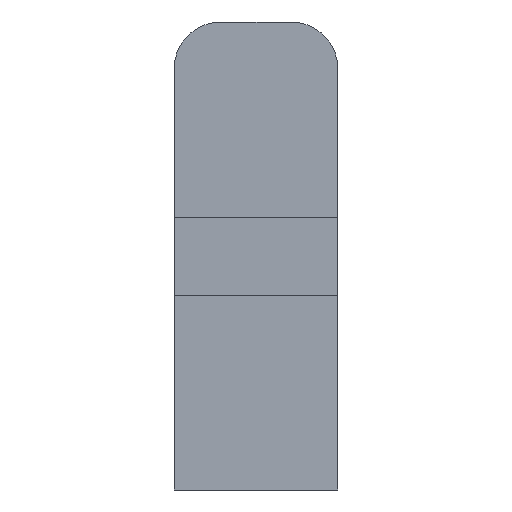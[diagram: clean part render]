
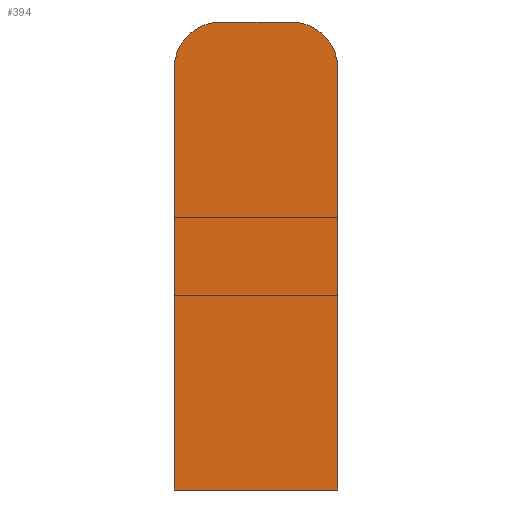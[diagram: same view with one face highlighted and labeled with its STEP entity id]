
A CAD part, front view. The second image highlights one B-rep face of the part: STEP entity #394.
In plain terms, the highlighted planar face has unit normal (0, -1, 0).
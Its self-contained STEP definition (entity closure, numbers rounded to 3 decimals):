
#40 = ORIENTED_EDGE ( 'NONE', *, *, #334, .T. ) ;
#41 = ORIENTED_EDGE ( 'NONE', *, *, #340, .T. ) ;
#42 = ORIENTED_EDGE ( 'NONE', *, *, #343, .T. ) ;
#43 = ORIENTED_EDGE ( 'NONE', *, *, #346, .T. ) ;
#44 = ORIENTED_EDGE ( 'NONE', *, *, #338, .T. ) ;
#45 = ORIENTED_EDGE ( 'NONE', *, *, #356, .T. ) ;
#64 = LINE ( 'NONE', #189, #79 ) ;
#79 = VECTOR ( 'NONE', #204, 1000. ) ;
#85 = LINE ( 'NONE', #205, #87 ) ;
#87 = VECTOR ( 'NONE', #213, 1000. ) ;
#88 = VECTOR ( 'NONE', #224, 1000. ) ;
#91 = LINE ( 'NONE', #223, #88 ) ;
#92 = CIRCLE ( 'NONE', #362, 3. ) ;
#102 = CIRCLE ( 'NONE', #361, 3. ) ;
#105 = FACE_OUTER_BOUND ( 'NONE', #389, .T. ) ;
#118 = LINE ( 'NONE', #254, #119 ) ;
#119 = VECTOR ( 'NONE', #255, 1000. ) ;
#144 = VERTEX_POINT ( 'NONE', #151 ) ;
#151 = CARTESIAN_POINT ( 'NONE',  ( 5.25, 0., -16.5 ) ) ;
#154 = VERTEX_POINT ( 'NONE', #173 ) ;
#157 = VERTEX_POINT ( 'NONE', #180 ) ;
#158 = VERTEX_POINT ( 'NONE', #181 ) ;
#159 = VERTEX_POINT ( 'NONE', #182 ) ;
#160 = VERTEX_POINT ( 'NONE', #183 ) ;
#173 = CARTESIAN_POINT ( 'NONE',  ( 2.25, 0., 13.5 ) ) ;
#180 = CARTESIAN_POINT ( 'NONE',  ( 5.25, 0., 10.5 ) ) ;
#181 = CARTESIAN_POINT ( 'NONE',  ( -5.25, 0., 10.5 ) ) ;
#182 = CARTESIAN_POINT ( 'NONE',  ( -5.25, 0., -16.5 ) ) ;
#183 = CARTESIAN_POINT ( 'NONE',  ( -2.25, 0., 13.5 ) ) ;
#189 = CARTESIAN_POINT ( 'NONE',  ( 5.25, 0., -16.5 ) ) ;
#204 = DIRECTION ( 'NONE',  ( 0., 0., 1. ) ) ;
#205 = CARTESIAN_POINT ( 'NONE',  ( -5.25, 0., -16.5 ) ) ;
#212 = CARTESIAN_POINT ( 'NONE',  ( 2.25, 0., 10.5 ) ) ;
#213 = DIRECTION ( 'NONE',  ( 0., 0., -1. ) ) ;
#216 = DIRECTION ( 'NONE',  ( 0., -1., 0. ) ) ;
#217 = DIRECTION ( 'NONE',  ( -1., 0., 0. ) ) ;
#223 = CARTESIAN_POINT ( 'NONE',  ( 2.25, 0., 13.5 ) ) ;
#224 = DIRECTION ( 'NONE',  ( -1., 0., 0. ) ) ;
#225 = CARTESIAN_POINT ( 'NONE',  ( -2.25, 0., 10.5 ) ) ;
#233 = DIRECTION ( 'NONE',  ( 0., -1., 0. ) ) ;
#234 = DIRECTION ( 'NONE',  ( -1., 0., 0. ) ) ;
#254 = CARTESIAN_POINT ( 'NONE',  ( 5.25, 0., -16.5 ) ) ;
#255 = DIRECTION ( 'NONE',  ( 1., 0., 0. ) ) ;
#256 = CARTESIAN_POINT ( 'NONE',  ( 0., 0., -1.5 ) ) ;
#259 = PLANE ( 'NONE',  #365 ) ;
#261 = DIRECTION ( 'NONE',  ( 0., 1., 0. ) ) ;
#262 = DIRECTION ( 'NONE',  ( -1., 0., 0. ) ) ;
#334 = EDGE_CURVE ( 'NONE', #144, #157, #64, .T. ) ;
#338 = EDGE_CURVE ( 'NONE', #158, #159, #85, .T. ) ;
#340 = EDGE_CURVE ( 'NONE', #157, #154, #92, .T. ) ;
#343 = EDGE_CURVE ( 'NONE', #154, #160, #91, .T. ) ;
#346 = EDGE_CURVE ( 'NONE', #160, #158, #102, .T. ) ;
#356 = EDGE_CURVE ( 'NONE', #159, #144, #118, .T. ) ;
#361 = AXIS2_PLACEMENT_3D ( 'NONE', #225, #233, #234 ) ;
#362 = AXIS2_PLACEMENT_3D ( 'NONE', #212, #216, #217 ) ;
#365 = AXIS2_PLACEMENT_3D ( 'NONE', #256, #261, #262 ) ;
#389 = EDGE_LOOP ( 'NONE', ( #40, #41, #42, #43, #44, #45 ) ) ;
#394 = ADVANCED_FACE ( 'NONE', ( #105 ), #259, .F. ) ;
